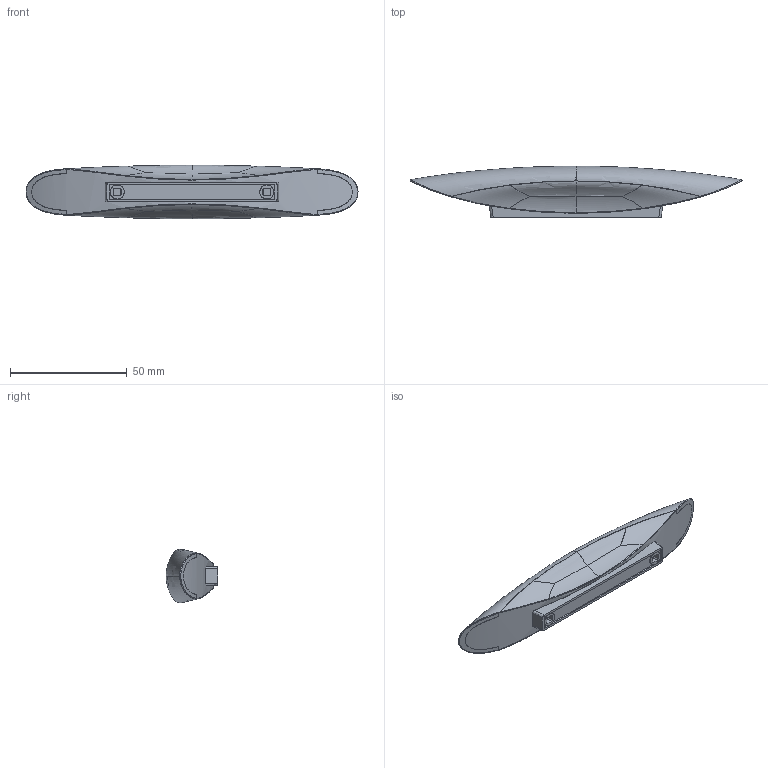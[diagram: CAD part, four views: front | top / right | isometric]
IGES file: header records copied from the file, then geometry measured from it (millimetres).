
Start section: C
Global section: file name: 8139-142.igs; native system: By Siemens PLM Incorporated; preprocessor: XPlus GENERIC/IGES 16.0.42; author: Author; organization: Title; date: 20231121.090344; units: millimetre
Bounding box: 141.98 x 22.1 x 22.89 mm (x, y, z)
Surface area: 18163.5 mm2 (no closed solid volume)
Topology: 0 solids, 0 shells, 164 faces, 890 edges, 888 vertices
Faces by surface type: bspline 164
